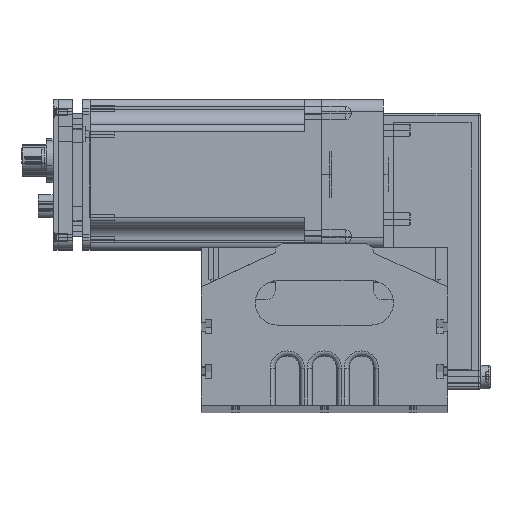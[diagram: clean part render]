
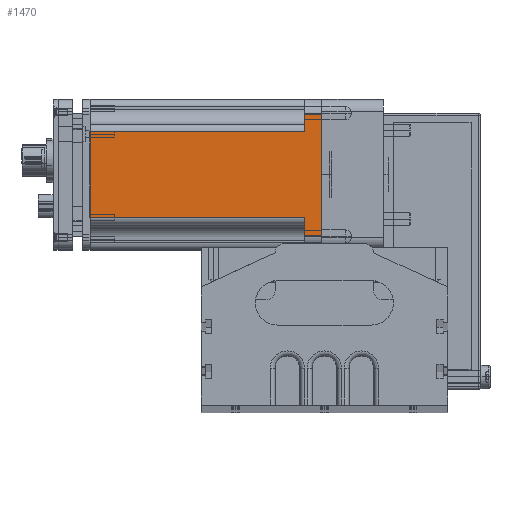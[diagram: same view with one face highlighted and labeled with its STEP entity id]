
A CAD part, top view. The second image highlights one B-rep face of the part: STEP entity #1470.
In plain terms, the highlighted planar face has unit normal (0, 0, 1).
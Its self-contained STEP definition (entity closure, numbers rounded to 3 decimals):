
#517 = VERTEX_POINT ( 'NONE', #30955 ) ;
#1427 = VERTEX_POINT ( 'NONE', #34247 ) ;
#1448 = EDGE_CURVE ( 'NONE', #2590, #1453, #34371, .T. ) ;
#1453 = VERTEX_POINT ( 'NONE', #34363 ) ;
#1459 = ORIENTED_EDGE ( 'NONE', *, *, #2472, .F. ) ;
#1461 = ORIENTED_EDGE ( 'NONE', *, *, #1448, .F. ) ;
#1463 = EDGE_CURVE ( 'NONE', #1427, #1621, #34337, .T. ) ;
#1464 = ORIENTED_EDGE ( 'NONE', *, *, #2888, .F. ) ;
#1465 = EDGE_CURVE ( 'NONE', #517, #1621, #34345, .T. ) ;
#1466 = ORIENTED_EDGE ( 'NONE', *, *, #1463, .F. ) ;
#1467 = VERTEX_POINT ( 'NONE', #34321 ) ;
#1469 = ORIENTED_EDGE ( 'NONE', *, *, #1623, .F. ) ;
#1470 = ADVANCED_FACE ( 'NONE', ( #34340 ), #34320, .F. ) ;
#1472 = ORIENTED_EDGE ( 'NONE', *, *, #1465, .T. ) ;
#1475 = VERTEX_POINT ( 'NONE', #34350 ) ;
#1482 = EDGE_LOOP ( 'NONE', ( #1461, #1459, #1464, #1472, #1466, #1469, #1611, #1614 ) ) ;
#1609 = EDGE_CURVE ( 'NONE', #1467, #1475, #34846, .T. ) ;
#1610 = EDGE_CURVE ( 'NONE', #1453, #1467, #34844, .T. ) ;
#1611 = ORIENTED_EDGE ( 'NONE', *, *, #1609, .F. ) ;
#1614 = ORIENTED_EDGE ( 'NONE', *, *, #1610, .F. ) ;
#1621 = VERTEX_POINT ( 'NONE', #34759 ) ;
#1623 = EDGE_CURVE ( 'NONE', #1475, #1427, #34817, .T. ) ;
#2472 = EDGE_CURVE ( 'NONE', #2612, #2590, #37512, .T. ) ;
#2590 = VERTEX_POINT ( 'NONE', #37905 ) ;
#2612 = VERTEX_POINT ( 'NONE', #37940 ) ;
#2888 = EDGE_CURVE ( 'NONE', #517, #2612, #38902, .T. ) ;
#30955 = CARTESIAN_POINT ( 'NONE',  ( -24.5, 0., 30.5 ) ) ;
#34247 = CARTESIAN_POINT ( 'NONE',  ( 24.5, 7., 30.5 ) ) ;
#34258 = VECTOR ( 'NONE', #34364, 1000. ) ;
#34320 = PLANE ( 'NONE',  #34438 ) ;
#34321 = CARTESIAN_POINT ( 'NONE',  ( 17.5, 94., 30.5 ) ) ;
#34323 = DIRECTION ( 'NONE',  ( 1., 0., 0. ) ) ;
#34325 = VECTOR ( 'NONE', #34323, 1000. ) ;
#34333 = DIRECTION ( 'NONE',  ( 0., -1., 0. ) ) ;
#34334 = VECTOR ( 'NONE', #34333, 1000. ) ;
#34335 = CARTESIAN_POINT ( 'NONE',  ( 24.5, 7., 30.5 ) ) ;
#34337 = LINE ( 'NONE', #34335, #34334 ) ;
#34340 = FACE_OUTER_BOUND ( 'NONE', #1482, .T. ) ;
#34344 = CARTESIAN_POINT ( 'NONE',  ( -24.5, 0., 30.5 ) ) ;
#34345 = LINE ( 'NONE', #34344, #34325 ) ;
#34350 = CARTESIAN_POINT ( 'NONE',  ( 17.5, 7., 30.5 ) ) ;
#34363 = CARTESIAN_POINT ( 'NONE',  ( -17.5, 94., 30.5 ) ) ;
#34364 = DIRECTION ( 'NONE',  ( 0., 1., 0. ) ) ;
#34370 = CARTESIAN_POINT ( 'NONE',  ( -17.5, 7., 30.5 ) ) ;
#34371 = LINE ( 'NONE', #34370, #34258 ) ;
#34425 = DIRECTION ( 'NONE',  ( -1., 0., 0. ) ) ;
#34427 = DIRECTION ( 'NONE',  ( 0., 0., -1. ) ) ;
#34429 = CARTESIAN_POINT ( 'NONE',  ( -24.5, 7., 30.5 ) ) ;
#34438 = AXIS2_PLACEMENT_3D ( 'NONE', #34429, #34427, #34425 ) ;
#34759 = CARTESIAN_POINT ( 'NONE',  ( 24.5, 0., 30.5 ) ) ;
#34816 = CARTESIAN_POINT ( 'NONE',  ( -24.5, 7., 30.5 ) ) ;
#34817 = LINE ( 'NONE', #34816, #34930 ) ;
#34829 = DIRECTION ( 'NONE',  ( 1., 0., 0. ) ) ;
#34831 = VECTOR ( 'NONE', #34829, 1000. ) ;
#34833 = CARTESIAN_POINT ( 'NONE',  ( 26.5, 94., 30.5 ) ) ;
#34836 = DIRECTION ( 'NONE',  ( 0., -1., 0. ) ) ;
#34838 = VECTOR ( 'NONE', #34836, 1000. ) ;
#34844 = LINE ( 'NONE', #34833, #34831 ) ;
#34846 = LINE ( 'NONE', #34862, #34838 ) ;
#34862 = CARTESIAN_POINT ( 'NONE',  ( 17.5, 95.35, 30.5 ) ) ;
#34929 = DIRECTION ( 'NONE',  ( 1., 0., 0. ) ) ;
#34930 = VECTOR ( 'NONE', #34929, 1000. ) ;
#37494 = DIRECTION ( 'NONE',  ( 1., 0., 0. ) ) ;
#37495 = VECTOR ( 'NONE', #37494, 1000. ) ;
#37496 = CARTESIAN_POINT ( 'NONE',  ( -24.5, 7., 30.5 ) ) ;
#37512 = LINE ( 'NONE', #37496, #37495 ) ;
#37905 = CARTESIAN_POINT ( 'NONE',  ( -17.5, 7., 30.5 ) ) ;
#37940 = CARTESIAN_POINT ( 'NONE',  ( -24.5, 7., 30.5 ) ) ;
#38898 = DIRECTION ( 'NONE',  ( 0., 1., 0. ) ) ;
#38899 = VECTOR ( 'NONE', #38898, 1000. ) ;
#38900 = CARTESIAN_POINT ( 'NONE',  ( -24.5, 7., 30.5 ) ) ;
#38902 = LINE ( 'NONE', #38900, #38899 ) ;
